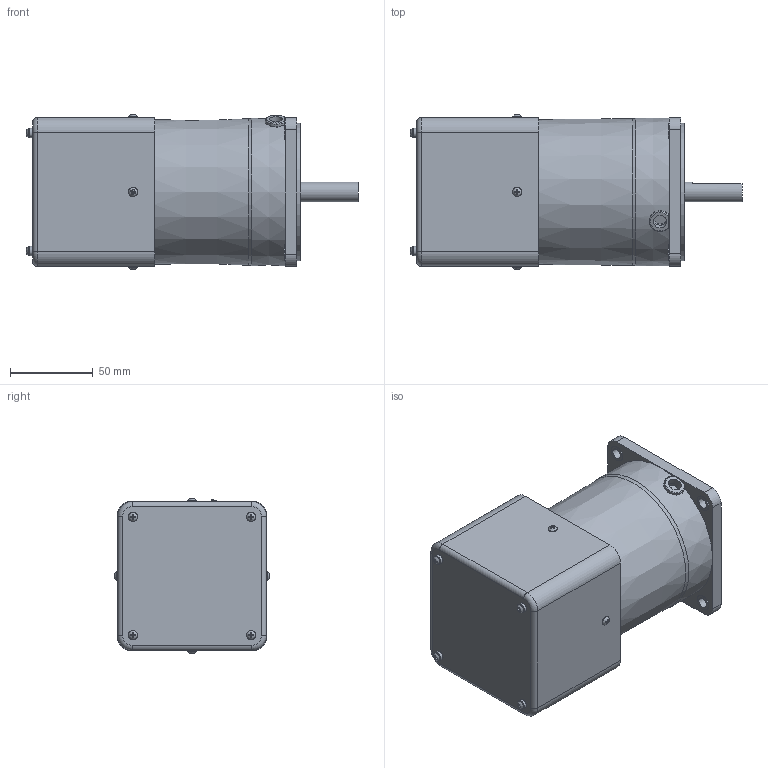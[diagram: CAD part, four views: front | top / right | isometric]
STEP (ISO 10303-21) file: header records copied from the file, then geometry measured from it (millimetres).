
FILE_DESCRIPTION((''),'2;1');
FILE_NAME('D:\STP파일\60W MOTOR\SPEED CONTROL TYPE\S9I60D-S.stp','2013-05-20T18:09:58',('leebh'),(''),'Autodesk Inventor 2011','Autodesk Inventor 2011','');
FILE_SCHEMA(('AUTOMOTIVE_DESIGN { 1 0 10303 214 1 1 1 1 }'));
Length unit declared in the file: millimetre
Products named in the file (1): 부품1
Bounding box: 200.75 x 93.89 x 93.89 mm (x, y, z)
Volume: 874828.5 mm3; surface area: 101202.1 mm2
Topology: 1 solids, 7 shells, 284 faces, 681 edges, 439 vertices
Faces by surface type: plane 175, cylinder 69, torus 26, bspline 8, cone 6
Full cylindrical faces by diameter (mm): 3 x8, 4.5 x4, 5.6 x12, 6.5 x4, 8 x1, 9.5 x4, 10 x1, 12 x1, 40 x1, 83 x1
Entity records: 8601 total; most frequent: CARTESIAN_POINT 2213, DIRECTION 1226, ORIENTED_EDGE 1196, EDGE_CURVE 598, AXIS2_PLACEMENT_3D 452, VERTEX_POINT 425, EDGE_LOOP 399, VECTOR 322
